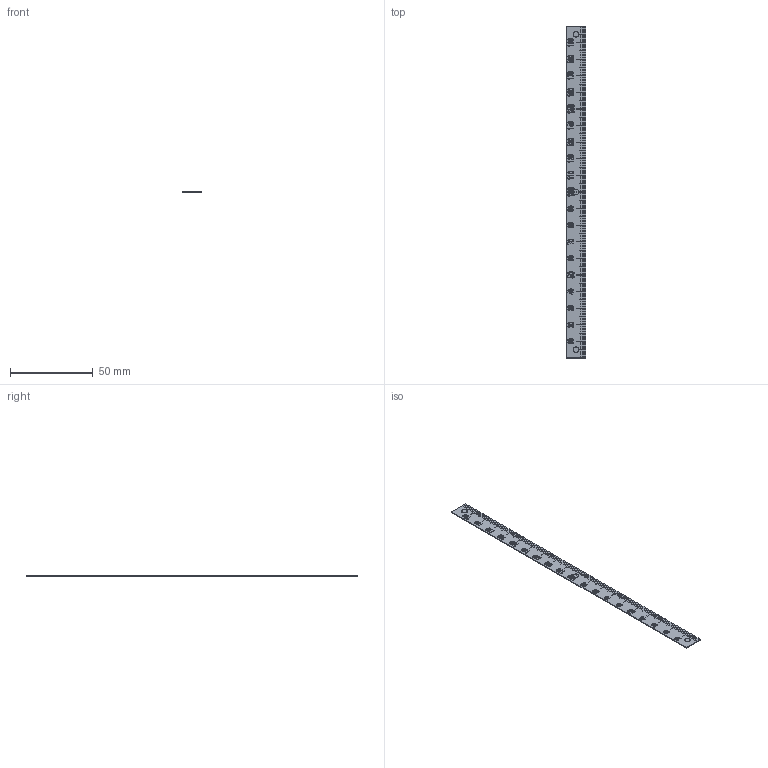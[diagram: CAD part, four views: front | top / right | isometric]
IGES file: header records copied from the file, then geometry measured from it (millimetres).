
Start section: SolidWorks IGES file using analytic representation for surfaces
Global section: file name: Y:\5.更新分\2023年対応\04xx_ALL\E\ES1N-D200R\es1n-d200r.IGS; native system: SolidWorks 2021; preprocessor: SolidWorks 2021; author: ImaoCorp; date: 230615.160516; units: millimetre
Bounding box: 12 x 200 x 0.5 mm (x, y, z)
Surface area: 5031.9 mm2 (no closed solid volume)
Topology: 0 solids, 0 shells, 1649 faces, 17373 edges, 17373 vertices
Faces by surface type: bspline 1635, revolution 14
